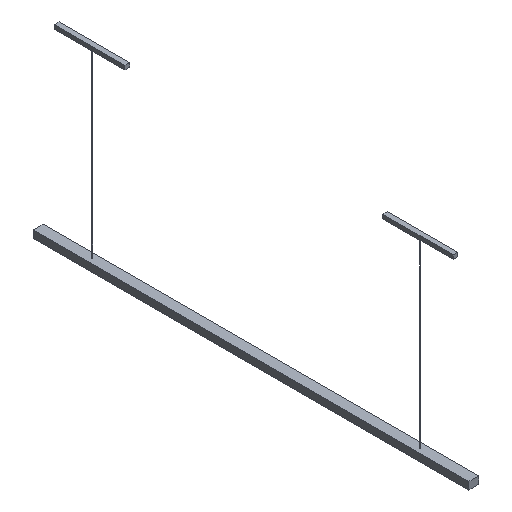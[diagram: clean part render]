
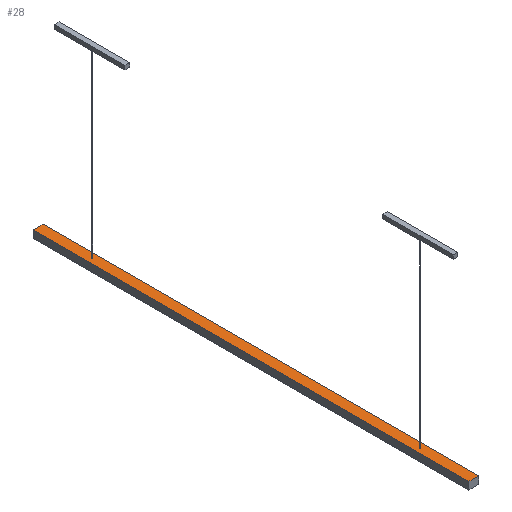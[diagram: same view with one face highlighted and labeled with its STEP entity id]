
A CAD part, isometric view. The second image highlights one B-rep face of the part: STEP entity #28.
In plain terms, the highlighted planar face has unit normal (0, 0, 1).
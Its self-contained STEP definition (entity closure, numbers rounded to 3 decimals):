
#16=FACE_BOUND('',#74,.T.);
#17=FACE_BOUND('',#75,.T.);
#28=ADVANCED_FACE('',(#50,#16,#17),#325,.T.);
#50=FACE_OUTER_BOUND('',#73,.T.);
#73=EDGE_LOOP('',(#127,#128,#129,#130));
#74=EDGE_LOOP('',(#131,#132));
#75=EDGE_LOOP('',(#133,#134));
#127=ORIENTED_EDGE('',*,*,#205,.T.);
#128=ORIENTED_EDGE('',*,*,#206,.T.);
#129=ORIENTED_EDGE('',*,*,#207,.F.);
#130=ORIENTED_EDGE('',*,*,#203,.F.);
#131=ORIENTED_EDGE('',*,*,#223,.T.);
#132=ORIENTED_EDGE('',*,*,#232,.T.);
#133=ORIENTED_EDGE('',*,*,#229,.F.);
#134=ORIENTED_EDGE('',*,*,#225,.F.);
#203=EDGE_CURVE('',#294,#295,#255,.T.);
#205=EDGE_CURVE('',#294,#296,#257,.T.);
#206=EDGE_CURVE('',#296,#297,#258,.T.);
#207=EDGE_CURVE('',#295,#297,#259,.T.);
#223=EDGE_CURVE('',#307,#311,#275,.T.);
#225=EDGE_CURVE('',#308,#309,#276,.T.);
#229=EDGE_CURVE('',#309,#308,#278,.T.);
#232=EDGE_CURVE('',#311,#307,#280,.T.);
#255=B_SPLINE_CURVE_WITH_KNOTS('',1,(#500,#501),.UNSPECIFIED.,.F.,.F.,(2,
2),(0.,599.),.UNSPECIFIED.);
#257=B_SPLINE_CURVE_WITH_KNOTS('',1,(#504,#505),.UNSPECIFIED.,.F.,.F.,(2,
2),(47.052,74.071),.UNSPECIFIED.);
#258=B_SPLINE_CURVE_WITH_KNOTS('',1,(#506,#507),.UNSPECIFIED.,.F.,.F.,(2,
2),(0.,599.),.UNSPECIFIED.);
#259=B_SPLINE_CURVE_WITH_KNOTS('',1,(#508,#509),.UNSPECIFIED.,.F.,.F.,(2,
2),(47.052,74.071),.UNSPECIFIED.);
#275=B_SPLINE_CURVE_WITH_KNOTS('',3,(#545,#546,#547,#548,#549,#550,#551),
 .UNSPECIFIED.,.F.,.F.,(4,3,4),(0.,2.346,4.693),
 .UNSPECIFIED.);
#276=B_SPLINE_CURVE_WITH_KNOTS('',3,(#554,#555,#556,#557,#558,#559,#560),
 .UNSPECIFIED.,.F.,.F.,(4,3,4),(0.,2.346,4.693),
 .UNSPECIFIED.);
#278=B_SPLINE_CURVE_WITH_KNOTS('',3,(#572,#573,#574,#575,#576,#577,#578),
 .UNSPECIFIED.,.F.,.F.,(4,3,4),(4.693,7.039,9.385),
 .UNSPECIFIED.);
#280=B_SPLINE_CURVE_WITH_KNOTS('',3,(#588,#589,#590,#591,#592,#593,#594),
 .UNSPECIFIED.,.F.,.F.,(4,3,4),(4.693,7.039,9.385),
 .UNSPECIFIED.);
#294=VERTEX_POINT('',#440);
#295=VERTEX_POINT('',#441);
#296=VERTEX_POINT('',#442);
#297=VERTEX_POINT('',#443);
#307=VERTEX_POINT('',#453);
#308=VERTEX_POINT('',#454);
#309=VERTEX_POINT('',#455);
#311=VERTEX_POINT('',#457);
#325=PLANE('',#364);
#364=AXIS2_PLACEMENT_3D('',#414,#389,$);
#389=DIRECTION('',(0.,0.,1.));
#414=CARTESIAN_POINT('',(13.509,593.5,-243.069));
#440=CARTESIAN_POINT('',(13.509,593.5,-243.069));
#441=CARTESIAN_POINT('',(13.509,-593.5,-243.069));
#442=CARTESIAN_POINT('',(-13.509,593.5,-243.069));
#443=CARTESIAN_POINT('',(-13.509,-593.5,-243.069));
#453=CARTESIAN_POINT('',(-0.876,-448.52,-243.069));
#454=CARTESIAN_POINT('',(-0.876,445.971,-243.069));
#455=CARTESIAN_POINT('',(1.018,447.895,-243.069));
#457=CARTESIAN_POINT('',(1.018,-446.596,-243.069));
#500=CARTESIAN_POINT('',(13.509,593.5,-243.069));
#501=CARTESIAN_POINT('',(13.509,-593.5,-243.069));
#504=CARTESIAN_POINT('',(13.509,593.5,-243.069));
#505=CARTESIAN_POINT('',(-13.509,593.5,-243.069));
#506=CARTESIAN_POINT('',(-13.509,593.5,-243.069));
#507=CARTESIAN_POINT('',(-13.509,-593.5,-243.069));
#508=CARTESIAN_POINT('',(13.509,-593.5,-243.069));
#509=CARTESIAN_POINT('',(-13.509,-593.5,-243.069));
#545=CARTESIAN_POINT('',(-0.876,-448.52,-243.069));
#546=CARTESIAN_POINT('',(-1.408,-447.997,-243.069));
#547=CARTESIAN_POINT('',(-1.414,-447.142,-243.069));
#548=CARTESIAN_POINT('',(-0.891,-446.611,-243.069));
#549=CARTESIAN_POINT('',(-0.368,-446.079,-243.069));
#550=CARTESIAN_POINT('',(0.487,-446.073,-243.069));
#551=CARTESIAN_POINT('',(1.018,-446.596,-243.069));
#554=CARTESIAN_POINT('',(-0.876,445.971,-243.069));
#555=CARTESIAN_POINT('',(-0.345,445.448,-243.069));
#556=CARTESIAN_POINT('',(0.51,445.455,-243.069));
#557=CARTESIAN_POINT('',(1.033,445.986,-243.069));
#558=CARTESIAN_POINT('',(1.556,446.517,-243.069));
#559=CARTESIAN_POINT('',(1.55,447.372,-243.069));
#560=CARTESIAN_POINT('',(1.018,447.895,-243.069));
#572=CARTESIAN_POINT('',(1.018,447.895,-243.069));
#573=CARTESIAN_POINT('',(0.487,448.419,-243.069));
#574=CARTESIAN_POINT('',(-0.368,448.412,-243.069));
#575=CARTESIAN_POINT('',(-0.891,447.881,-243.069));
#576=CARTESIAN_POINT('',(-1.414,447.349,-243.069));
#577=CARTESIAN_POINT('',(-1.408,446.494,-243.069));
#578=CARTESIAN_POINT('',(-0.876,445.971,-243.069));
#588=CARTESIAN_POINT('',(1.018,-446.596,-243.069));
#589=CARTESIAN_POINT('',(1.55,-447.119,-243.069));
#590=CARTESIAN_POINT('',(1.556,-447.974,-243.069));
#591=CARTESIAN_POINT('',(1.033,-448.505,-243.069));
#592=CARTESIAN_POINT('',(0.51,-449.037,-243.069));
#593=CARTESIAN_POINT('',(-0.345,-449.043,-243.069));
#594=CARTESIAN_POINT('',(-0.876,-448.52,-243.069));
